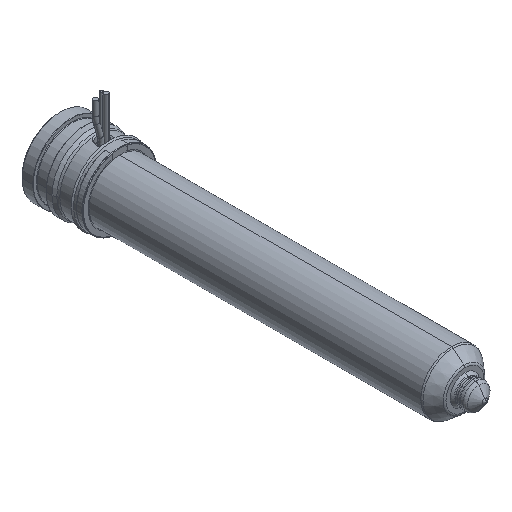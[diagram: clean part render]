
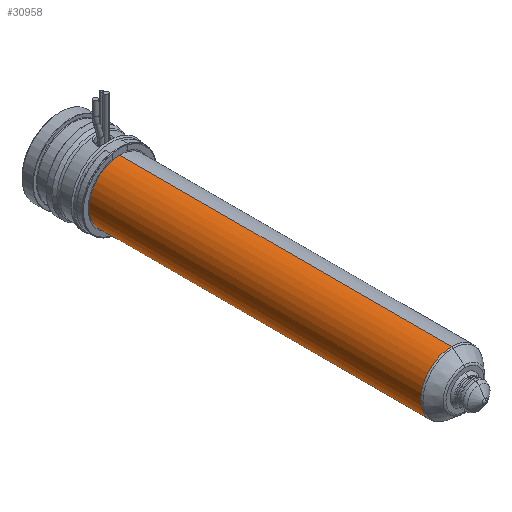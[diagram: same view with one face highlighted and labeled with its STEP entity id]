
A CAD part, isometric view. The second image highlights one B-rep face of the part: STEP entity #30958.
In plain terms, the highlighted cylindrical face has radius 12 mm (diameter 24 mm), a partial arc.
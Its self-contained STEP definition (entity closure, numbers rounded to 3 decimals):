
#30443=CARTESIAN_POINT('',(0.,-24.,0.));
#30444=DIRECTION('',(0.,1.,0.));
#30445=DIRECTION('',(0.,0.,-1.));
#30446=AXIS2_PLACEMENT_3D('',#30443,#30444,#30445);
#30451=DIRECTION('',(0.,1.,0.));
#30452=VECTOR('',#30451,129.736);
#30453=CARTESIAN_POINT('',(0.,-153.736,12.));
#30454=LINE('',#30453,#30452);
#30466=DIRECTION('',(0.,1.,0.));
#30467=VECTOR('',#30466,129.736);
#30468=CARTESIAN_POINT('',(0.,-153.736,-12.));
#30469=LINE('',#30468,#30467);
#30497=CARTESIAN_POINT('',(0.,-153.736,0.));
#30498=DIRECTION('',(0.,-1.,0.));
#30499=DIRECTION('',(0.,0.,1.));
#30500=AXIS2_PLACEMENT_3D('',#30497,#30498,#30499);
#30827=CARTESIAN_POINT('',(0.,-153.736,12.));
#30828=CARTESIAN_POINT('',(0.,-24.,12.));
#30829=VERTEX_POINT('',#30827);
#30830=VERTEX_POINT('',#30828);
#30831=CARTESIAN_POINT('',(0.,-153.736,-12.));
#30832=CARTESIAN_POINT('',(0.,-24.,-12.));
#30833=VERTEX_POINT('',#30831);
#30834=VERTEX_POINT('',#30832);
#30944=CARTESIAN_POINT('',(0.,-12.625,0.));
#30945=DIRECTION('',(0.,-1.,0.));
#30946=DIRECTION('',(0.,0.,1.));
#30947=AXIS2_PLACEMENT_3D('',#30944,#30945,#30946);
#30948=CYLINDRICAL_SURFACE('',#30947,12.);
#30950=ORIENTED_EDGE('',*,*,#30949,.F.);
#30952=ORIENTED_EDGE('',*,*,#30951,.T.);
#30954=ORIENTED_EDGE('',*,*,#30953,.T.);
#30955=ORIENTED_EDGE('',*,*,#30937,.T.);
#30956=EDGE_LOOP('',(#30950,#30952,#30954,#30955));
#30957=FACE_OUTER_BOUND('',#30956,.F.);
#30958=ADVANCED_FACE('',(#30957),#30948,.T.);
#30447=CIRCLE('',#30446,12.);
#30501=CIRCLE('',#30500,12.);
#30937=EDGE_CURVE('',#30834,#30830,#30447,.T.);
#30949=EDGE_CURVE('',#30829,#30830,#30454,.T.);
#30951=EDGE_CURVE('',#30829,#30833,#30501,.T.);
#30953=EDGE_CURVE('',#30833,#30834,#30469,.T.);
